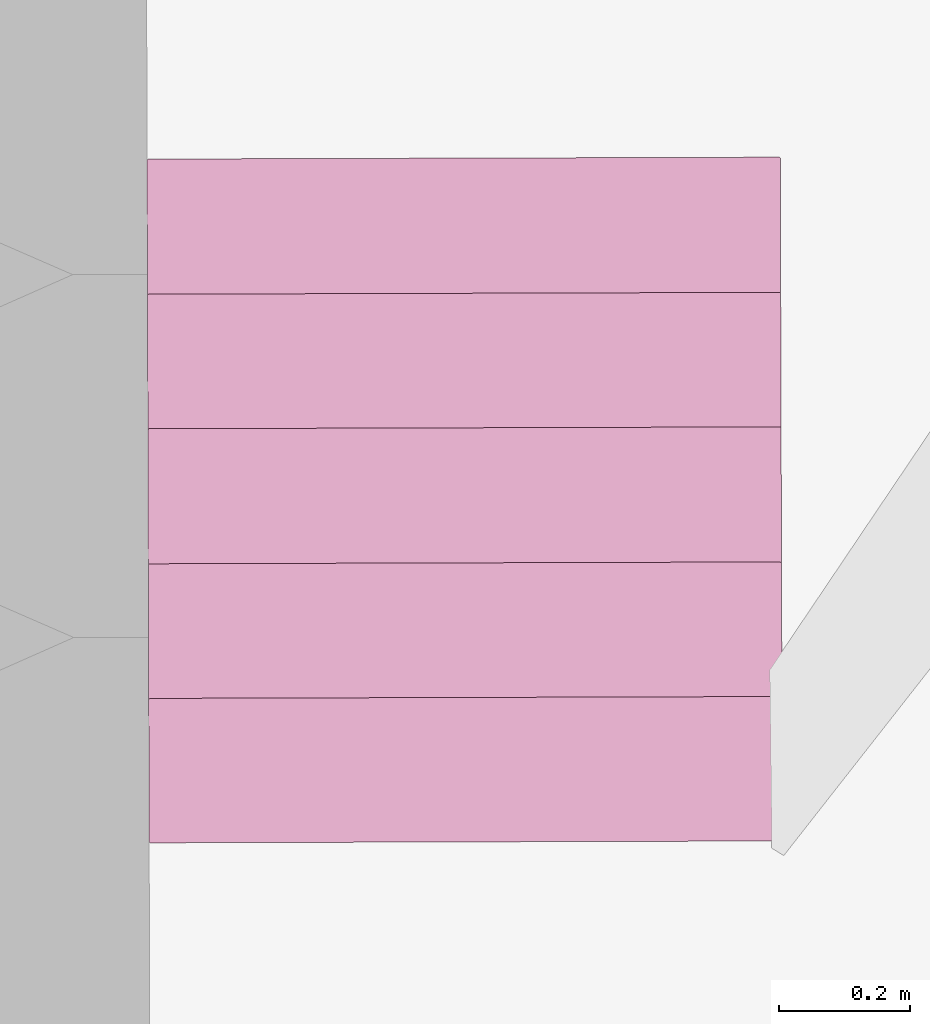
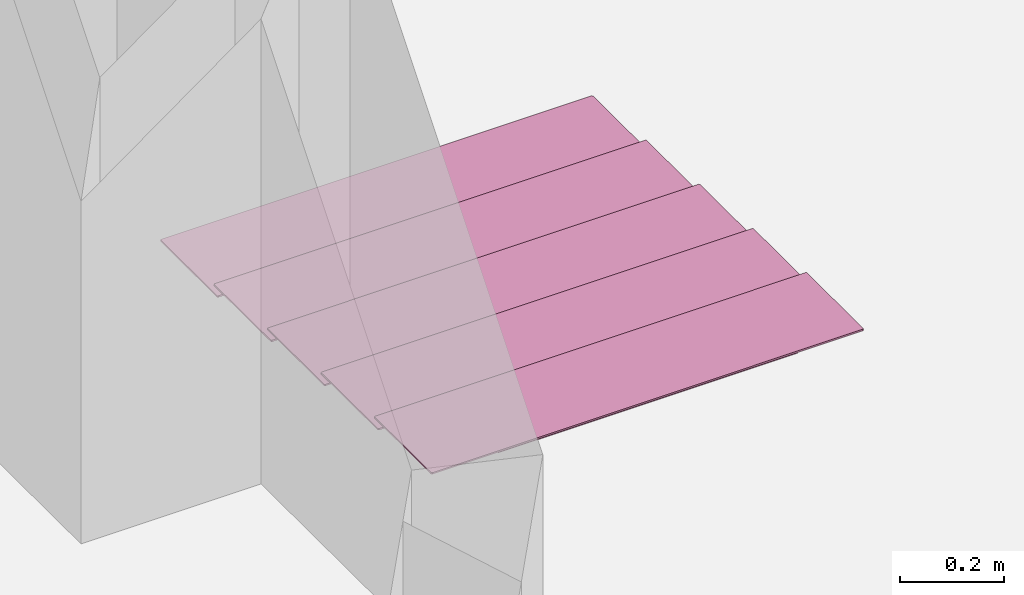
# One storey, part 10 of 15: 1 furniture element.
"""IFC4 building model written with IfcOpenShell, lengths in metres."""

from ifc_helpers import new_model, si_unit, direction, frame, origin_with_axes, place, context, project, spatial, polygons, type_object, element, save


model = new_model("IFC4")

# Units and contexts
model_context = context("Model", 3, precision=1e-05, world=origin_with_axes(), true_north=direction((-0.077, 0.997, 0.0)))
ifc_project = project(units=[si_unit("AREAUNIT", "SQUARE_METRE"), si_unit("LENGTHUNIT", "METRE")], contexts=[model_context])

# Site, building, storey, space
site_placement = place(None, origin_with_axes())
site = spatial("IfcSite", under=ifc_project, at=site_placement, Name="Site", CompositionType="ELEMENT")
building_placement = place(site_placement, origin_with_axes())
building = spatial("IfcBuilding", under=site, at=building_placement, Name="Building", CompositionType="ELEMENT")
storey_placement = place(building_placement, frame((0.0, 0.0, 5.71135139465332), z_axis=(0.0, 0.0, 1.0), x_axis=(1.0, 0.0, 0.0)))
storey = spatial("IfcBuildingStorey", under=building, at=storey_placement, Name="Story 2", CompositionType="ELEMENT", Elevation=5.71135139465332)
space_placement = place(storey_placement, frame((1.57239541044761, -0.970197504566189, 0.0), z_axis=(0.0, 0.0, 1.0), x_axis=(1.0, 0.0, 0.0)))
space = spatial("IfcSpace", under=storey, at=space_placement, Name="019", CompositionType="ELEMENT")

# Furniture
furniture_type = type_object("IfcFurnitureType", Name="e0f60e37-5849-42e5-8fd0-7a5be3019511", AssemblyPlace="NOTDEFINED", PredefinedType="USERDEFINED")
furniture_placement = place(space_placement, frame((0.479848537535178, 0.94719000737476, 0.0524983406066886), z_axis=(0.0, 0.0, 0.999999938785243), x_axis=(-0.00298984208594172, 0.999995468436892, 0.0)))
element("IfcFurniture", 1, at=furniture_placement, inside=space, type_object=furniture_type, Name="STAIRS", ObjectType="STAIRS", PredefinedType="USERDEFINED", context=model_context, shape_type="Tessellation", body=[
    polygons([(0.5205, 0.4802, -0.0285), (0.5205, -0.4802, -0.0285), (0.5205, 0.4802, -0.0323), (0.5205, -0.4802, -0.0323), (0.5205, 0.4802, -0.0323), (0.5205, -0.4802, -0.0285), (0.5191, -0.482, -0.0285), (0.3021, -0.482, -0.0285), (0.5191, -0.482, -0.0323), (0.3021, -0.482, -0.0323), (0.5191, -0.482, -0.0323), (0.3021, -0.482, -0.0285), (0.3006, -0.4802, -0.0285), (0.3006, 0.4802, -0.0285), (0.3006, -0.4802, -0.0323), (0.3006, 0.4802, -0.0323), (0.3006, -0.4802, -0.0323), (0.3006, 0.4802, -0.0285), (0.3021, 0.482, -0.0285), (0.5191, 0.482, -0.0285), (0.3021, 0.482, -0.0323), (0.5191, 0.482, -0.0323), (0.3021, 0.482, -0.0323), (0.5191, 0.482, -0.0285), (0.5191, -0.4802, -0.0325), (0.3021, -0.4802, -0.0325), (0.5191, 0.4802, -0.0325), (0.3021, 0.4802, -0.0325), (0.5191, 0.4802, -0.0325), (0.3021, -0.4802, -0.0325), (0.5191, -0.4802, -0.0283), (0.5191, 0.4802, -0.0283), (0.3021, -0.4802, -0.0283), (0.3021, 0.4802, -0.0283), (0.3021, -0.4802, -0.0283), (0.5191, 0.4802, -0.0283), (0.5191, 0.482, -0.0323), (0.5205, 0.4802, -0.0323), (0.5191, 0.4802, -0.0325), (0.5191, -0.482, -0.0323), (0.5191, -0.4802, -0.0325), (0.5205, -0.4802, -0.0323), (0.3006, -0.4802, -0.0323), (0.3021, -0.4802, -0.0325), (0.3021, -0.482, -0.0323), (0.3006, 0.4802, -0.0323), (0.3021, 0.482, -0.0323), (0.3021, 0.4802, -0.0325), (0.5191, 0.4802, -0.0283), (0.5205, 0.4802, -0.0285), (0.5191, 0.482, -0.0285), (0.5191, -0.4802, -0.0283), (0.5191, -0.482, -0.0285), (0.5205, -0.4802, -0.0285), (0.3021, -0.4802, -0.0283), (0.3006, -0.4802, -0.0285), (0.3021, -0.482, -0.0285), (0.3021, 0.4802, -0.0283), (0.3021, 0.482, -0.0285), (0.3006, 0.4802, -0.0285), (0.5191, 0.4802, -0.0325), (0.5205, 0.4802, -0.0323), (0.5191, -0.4802, -0.0325), (0.5205, -0.4802, -0.0323), (0.5191, -0.4802, -0.0325), (0.5205, 0.4802, -0.0323), (0.5191, -0.482, -0.0323), (0.5205, -0.4802, -0.0323), (0.5191, -0.482, -0.0285), (0.5205, -0.4802, -0.0285), (0.5191, -0.482, -0.0285), (0.5205, -0.4802, -0.0323), (0.5191, -0.4802, -0.0283), (0.5205, -0.4802, -0.0285), (0.5191, 0.4802, -0.0283), (0.5205, 0.4802, -0.0285), (0.5191, 0.4802, -0.0283), (0.5205, -0.4802, -0.0285), (0.5191, 0.482, -0.0285), (0.5205, 0.4802, -0.0285), (0.5191, 0.482, -0.0323), (0.5205, 0.4802, -0.0323), (0.5191, 0.482, -0.0323), (0.5205, 0.4802, -0.0285), (0.5191, -0.4802, -0.0325), (0.5191, -0.482, -0.0323), (0.3021, -0.4802, -0.0325), (0.3021, -0.482, -0.0323), (0.3021, -0.4802, -0.0325), (0.5191, -0.482, -0.0323), (0.3006, -0.4802, -0.0323), (0.3021, -0.482, -0.0323), (0.3006, -0.4802, -0.0285), (0.3021, -0.482, -0.0285), (0.3006, -0.4802, -0.0285), (0.3021, -0.482, -0.0323), (0.3021, -0.4802, -0.0283), (0.3021, -0.482, -0.0285), (0.5191, -0.4802, -0.0283), (0.5191, -0.482, -0.0285), (0.5191, -0.4802, -0.0283), (0.3021, -0.482, -0.0285), (0.3021, -0.4802, -0.0325), (0.3006, -0.4802, -0.0323), (0.3021, 0.4802, -0.0325), (0.3006, 0.4802, -0.0323), (0.3021, 0.4802, -0.0325), (0.3006, -0.4802, -0.0323), (0.3021, 0.482, -0.0323), (0.3006, 0.4802, -0.0323), (0.3021, 0.482, -0.0285), (0.3006, 0.4802, -0.0285), (0.3021, 0.482, -0.0285), (0.3006, 0.4802, -0.0323), (0.3021, 0.4802, -0.0283), (0.3006, 0.4802, -0.0285), (0.3021, -0.4802, -0.0283), (0.3006, -0.4802, -0.0285), (0.3021, -0.4802, -0.0283), (0.3006, 0.4802, -0.0285), (0.3021, 0.4802, -0.0325), (0.3021, 0.482, -0.0323), (0.5191, 0.4802, -0.0325), (0.5191, 0.482, -0.0323), (0.5191, 0.4802, -0.0325), (0.3021, 0.482, -0.0323), (0.5191, 0.4802, -0.0283), (0.5191, 0.482, -0.0285), (0.3021, 0.4802, -0.0283), (0.3021, 0.482, -0.0285), (0.3021, 0.4802, -0.0283), (0.5191, 0.482, -0.0285), (0.3147, 0.4802, -0.0085), (0.3147, -0.4802, -0.0085), (0.3147, 0.4802, -0.0122), (0.3147, -0.4802, -0.0122), (0.3147, 0.4802, -0.0122), (0.3147, -0.4802, -0.0085), (0.3132, -0.482, -0.0085), (0.0963, -0.482, -0.0085), (0.3132, -0.482, -0.0122), (0.0963, -0.482, -0.0122), (0.3132, -0.482, -0.0122), (0.0963, -0.482, -0.0085), (0.0948, -0.4802, -0.0085), (0.0948, 0.4802, -0.0085), (0.0948, -0.4802, -0.0122), (0.0948, 0.4802, -0.0122), (0.0948, -0.4802, -0.0122), (0.0948, 0.4802, -0.0085), (0.0963, 0.482, -0.0085), (0.3132, 0.482, -0.0085), (0.0963, 0.482, -0.0122), (0.3132, 0.482, -0.0122), (0.0963, 0.482, -0.0122), (0.3132, 0.482, -0.0085), (0.3132, -0.4802, -0.0125), (0.0963, -0.4802, -0.0125), (0.3132, 0.4802, -0.0125), (0.0963, 0.4802, -0.0125), (0.3132, 0.4802, -0.0125), (0.0963, -0.4802, -0.0125), (0.3132, -0.4802, -0.0082), (0.3132, 0.4802, -0.0082), (0.0963, -0.4802, -0.0082), (0.0963, 0.4802, -0.0082), (0.0963, -0.4802, -0.0082), (0.3132, 0.4802, -0.0082), (0.3132, 0.482, -0.0122), (0.3147, 0.4802, -0.0122), (0.3132, 0.4802, -0.0125), (0.3132, -0.482, -0.0122), (0.3132, -0.4802, -0.0125), (0.3147, -0.4802, -0.0122), (0.0948, -0.4802, -0.0122), (0.0963, -0.4802, -0.0125), (0.0963, -0.482, -0.0122), (0.0948, 0.4802, -0.0122), (0.0963, 0.482, -0.0122), (0.0963, 0.4802, -0.0125), (0.3132, 0.4802, -0.0082), (0.3147, 0.4802, -0.0085), (0.3132, 0.482, -0.0085), (0.3132, -0.4802, -0.0082), (0.3132, -0.482, -0.0085), (0.3147, -0.4802, -0.0085), (0.0963, -0.4802, -0.0082), (0.0948, -0.4802, -0.0085), (0.0963, -0.482, -0.0085), (0.0963, 0.4802, -0.0082), (0.0963, 0.482, -0.0085), (0.0948, 0.4802, -0.0085), (0.3132, 0.4802, -0.0125), (0.3147, 0.4802, -0.0122), (0.3132, -0.4802, -0.0125), (0.3147, -0.4802, -0.0122), (0.3132, -0.4802, -0.0125), (0.3147, 0.4802, -0.0122), (0.3132, -0.482, -0.0122), (0.3147, -0.4802, -0.0122), (0.3132, -0.482, -0.0085), (0.3147, -0.4802, -0.0085), (0.3132, -0.482, -0.0085), (0.3147, -0.4802, -0.0122), (0.3132, -0.4802, -0.0082), (0.3147, -0.4802, -0.0085), (0.3132, 0.4802, -0.0082), (0.3147, 0.4802, -0.0085), (0.3132, 0.4802, -0.0082), (0.3147, -0.4802, -0.0085), (0.3132, 0.482, -0.0085), (0.3147, 0.4802, -0.0085), (0.3132, 0.482, -0.0122), (0.3147, 0.4802, -0.0122), (0.3132, 0.482, -0.0122), (0.3147, 0.4802, -0.0085), (0.3132, -0.4802, -0.0125), (0.3132, -0.482, -0.0122), (0.0963, -0.4802, -0.0125), (0.0963, -0.482, -0.0122), (0.0963, -0.4802, -0.0125), (0.3132, -0.482, -0.0122), (0.0948, -0.4802, -0.0122), (0.0963, -0.482, -0.0122), (0.0948, -0.4802, -0.0085), (0.0963, -0.482, -0.0085), (0.0948, -0.4802, -0.0085), (0.0963, -0.482, -0.0122), (0.0963, -0.4802, -0.0082), (0.0963, -0.482, -0.0085), (0.3132, -0.4802, -0.0082), (0.3132, -0.482, -0.0085), (0.3132, -0.4802, -0.0082), (0.0963, -0.482, -0.0085), (0.0963, -0.4802, -0.0125), (0.0948, -0.4802, -0.0122), (0.0963, 0.4802, -0.0125), (0.0948, 0.4802, -0.0122), (0.0963, 0.4802, -0.0125), (0.0948, -0.4802, -0.0122), (0.0963, 0.482, -0.0122), (0.0948, 0.4802, -0.0122), (0.0963, 0.482, -0.0085), (0.0948, 0.4802, -0.0085), (0.0963, 0.482, -0.0085), (0.0948, 0.4802, -0.0122), (0.0963, 0.4802, -0.0082), (0.0948, 0.4802, -0.0085), (0.0963, -0.4802, -0.0082), (0.0948, -0.4802, -0.0085), (0.0963, -0.4802, -0.0082), (0.0948, 0.4802, -0.0085), (0.0963, 0.4802, -0.0125), (0.0963, 0.482, -0.0122), (0.3132, 0.4802, -0.0125), (0.3132, 0.482, -0.0122), (0.3132, 0.4802, -0.0125), (0.0963, 0.482, -0.0122), (0.3132, 0.4802, -0.0082), (0.3132, 0.482, -0.0085), (0.0963, 0.4802, -0.0082), (0.0963, 0.482, -0.0085), (0.0963, 0.4802, -0.0082), (0.3132, 0.482, -0.0085), (0.1099, 0.4802, 0.0117), (0.1099, -0.4802, 0.0117), (0.1099, 0.4802, 0.008), (0.1099, -0.4802, 0.008), (0.1099, 0.4802, 0.008), (0.1099, -0.4802, 0.0117), (0.1085, -0.482, 0.0117), (-0.1085, -0.482, 0.0117), (0.1085, -0.482, 0.008), (-0.1085, -0.482, 0.008), (0.1085, -0.482, 0.008), (-0.1085, -0.482, 0.0117), (-0.11, -0.4802, 0.0117), (-0.11, 0.4802, 0.0117), (-0.11, -0.4802, 0.008), (-0.11, 0.4802, 0.008), (-0.11, -0.4802, 0.008), (-0.11, 0.4802, 0.0117), (-0.1085, 0.482, 0.0117), (0.1085, 0.482, 0.0117), (-0.1085, 0.482, 0.008), (0.1085, 0.482, 0.008), (-0.1085, 0.482, 0.008), (0.1085, 0.482, 0.0117), (0.1085, -0.4802, 0.0077), (-0.1085, -0.4802, 0.0077), (0.1085, 0.4802, 0.0077), (-0.1085, 0.4802, 0.0077), (0.1085, 0.4802, 0.0077), (-0.1085, -0.4802, 0.0077), (0.1085, -0.4802, 0.012), (0.1085, 0.4802, 0.012), (-0.1085, -0.4802, 0.012), (-0.1085, 0.4802, 0.012), (-0.1085, -0.4802, 0.012), (0.1085, 0.4802, 0.012), (0.1085, 0.482, 0.008), (0.1099, 0.4802, 0.008), (0.1085, 0.4802, 0.0077), (0.1085, -0.482, 0.008), (0.1085, -0.4802, 0.0077), (0.1099, -0.4802, 0.008), (-0.11, -0.4802, 0.008), (-0.1085, -0.4802, 0.0077), (-0.1085, -0.482, 0.008), (-0.11, 0.4802, 0.008), (-0.1085, 0.482, 0.008), (-0.1085, 0.4802, 0.0077), (0.1085, 0.4802, 0.012), (0.1099, 0.4802, 0.0117), (0.1085, 0.482, 0.0117), (0.1085, -0.4802, 0.012), (0.1085, -0.482, 0.0117), (0.1099, -0.4802, 0.0117), (-0.1085, -0.4802, 0.012), (-0.11, -0.4802, 0.0117), (-0.1085, -0.482, 0.0117), (-0.1085, 0.4802, 0.012), (-0.1085, 0.482, 0.0117), (-0.11, 0.4802, 0.0117), (0.1085, 0.4802, 0.0077), (0.1099, 0.4802, 0.008), (0.1085, -0.4802, 0.0077), (0.1099, -0.4802, 0.008), (0.1085, -0.4802, 0.0077), (0.1099, 0.4802, 0.008), (0.1085, -0.482, 0.008), (0.1099, -0.4802, 0.008), (0.1085, -0.482, 0.0117), (0.1099, -0.4802, 0.0117), (0.1085, -0.482, 0.0117), (0.1099, -0.4802, 0.008), (0.1085, -0.4802, 0.012), (0.1099, -0.4802, 0.0117), (0.1085, 0.4802, 0.012), (0.1099, 0.4802, 0.0117), (0.1085, 0.4802, 0.012), (0.1099, -0.4802, 0.0117), (0.1085, 0.482, 0.0117), (0.1099, 0.4802, 0.0117), (0.1085, 0.482, 0.008), (0.1099, 0.4802, 0.008), (0.1085, 0.482, 0.008), (0.1099, 0.4802, 0.0117), (0.1085, -0.4802, 0.0077), (0.1085, -0.482, 0.008), (-0.1085, -0.4802, 0.0077), (-0.1085, -0.482, 0.008), (-0.1085, -0.4802, 0.0077), (0.1085, -0.482, 0.008), (-0.11, -0.4802, 0.008), (-0.1085, -0.482, 0.008), (-0.11, -0.4802, 0.0117), (-0.1085, -0.482, 0.0117), (-0.11, -0.4802, 0.0117), (-0.1085, -0.482, 0.008), (-0.1085, -0.4802, 0.012), (-0.1085, -0.482, 0.0117), (0.1085, -0.4802, 0.012), (0.1085, -0.482, 0.0117), (0.1085, -0.4802, 0.012), (-0.1085, -0.482, 0.0117), (-0.1085, -0.4802, 0.0077), (-0.11, -0.4802, 0.008), (-0.1085, 0.4802, 0.0077), (-0.11, 0.4802, 0.008), (-0.1085, 0.4802, 0.0077), (-0.11, -0.4802, 0.008), (-0.1085, 0.482, 0.008), (-0.11, 0.4802, 0.008), (-0.1085, 0.482, 0.0117), (-0.11, 0.4802, 0.0117), (-0.1085, 0.482, 0.0117), (-0.11, 0.4802, 0.008), (-0.1085, 0.4802, 0.012), (-0.11, 0.4802, 0.0117), (-0.1085, -0.4802, 0.012), (-0.11, -0.4802, 0.0117), (-0.1085, -0.4802, 0.012), (-0.11, 0.4802, 0.0117), (-0.1085, 0.4802, 0.0077), (-0.1085, 0.482, 0.008), (0.1085, 0.4802, 0.0077), (0.1085, 0.482, 0.008), (0.1085, 0.4802, 0.0077), (-0.1085, 0.482, 0.008), (0.1085, 0.4802, 0.012), (0.1085, 0.482, 0.0117), (-0.1085, 0.4802, 0.012), (-0.1085, 0.482, 0.0117), (-0.1085, 0.4802, 0.012), (0.1085, 0.482, 0.0117), (-0.0957, 0.4802, 0.032), (-0.0957, -0.4802, 0.032), (-0.0957, 0.4802, 0.0283), (-0.0957, -0.4802, 0.0283), (-0.0957, 0.4802, 0.0283), (-0.0957, -0.4802, 0.032), (-0.0972, -0.482, 0.032), (-0.3142, -0.482, 0.032), (-0.0972, -0.482, 0.0283), (-0.3142, -0.482, 0.0283), (-0.0972, -0.482, 0.0283), (-0.3142, -0.482, 0.032), (-0.3156, -0.4802, 0.032), (-0.3156, 0.4802, 0.032), (-0.3156, -0.4802, 0.0283), (-0.3156, 0.4802, 0.0283), (-0.3156, -0.4802, 0.0283), (-0.3156, 0.4802, 0.032), (-0.3142, 0.482, 0.032), (-0.0972, 0.482, 0.032), (-0.3142, 0.482, 0.0283), (-0.0972, 0.482, 0.0283), (-0.3142, 0.482, 0.0283), (-0.0972, 0.482, 0.032), (-0.0972, -0.4802, 0.028), (-0.3142, -0.4802, 0.028), (-0.0972, 0.4802, 0.028), (-0.3142, 0.4802, 0.028), (-0.0972, 0.4802, 0.028), (-0.3142, -0.4802, 0.028), (-0.0972, -0.4802, 0.0323), (-0.0972, 0.4802, 0.0323), (-0.3142, -0.4802, 0.0323), (-0.3142, 0.4802, 0.0323), (-0.3142, -0.4802, 0.0323), (-0.0972, 0.4802, 0.0323), (-0.0972, 0.482, 0.0283), (-0.0957, 0.4802, 0.0283), (-0.0972, 0.4802, 0.028), (-0.0972, -0.482, 0.0283), (-0.0972, -0.4802, 0.028), (-0.0957, -0.4802, 0.0283), (-0.3156, -0.4802, 0.0283), (-0.3142, -0.4802, 0.028), (-0.3142, -0.482, 0.0283), (-0.3156, 0.4802, 0.0283), (-0.3142, 0.482, 0.0283), (-0.3142, 0.4802, 0.028), (-0.0972, 0.4802, 0.0323), (-0.0957, 0.4802, 0.032), (-0.0972, 0.482, 0.032), (-0.0972, -0.4802, 0.0323), (-0.0972, -0.482, 0.032), (-0.0957, -0.4802, 0.032), (-0.3142, -0.4802, 0.0323), (-0.3156, -0.4802, 0.032), (-0.3142, -0.482, 0.032), (-0.3142, 0.4802, 0.0323), (-0.3142, 0.482, 0.032), (-0.3156, 0.4802, 0.032), (-0.0972, 0.4802, 0.028), (-0.0957, 0.4802, 0.0283), (-0.0972, -0.4802, 0.028), (-0.0957, -0.4802, 0.0283), (-0.0972, -0.4802, 0.028), (-0.0957, 0.4802, 0.0283), (-0.0972, -0.482, 0.0283), (-0.0957, -0.4802, 0.0283), (-0.0972, -0.482, 0.032), (-0.0957, -0.4802, 0.032), (-0.0972, -0.482, 0.032), (-0.0957, -0.4802, 0.0283), (-0.0972, -0.4802, 0.0323), (-0.0957, -0.4802, 0.032), (-0.0972, 0.4802, 0.0323), (-0.0957, 0.4802, 0.032), (-0.0972, 0.4802, 0.0323), (-0.0957, -0.4802, 0.032), (-0.0972, 0.482, 0.032), (-0.0957, 0.4802, 0.032), (-0.0972, 0.482, 0.0283), (-0.0957, 0.4802, 0.0283), (-0.0972, 0.482, 0.0283), (-0.0957, 0.4802, 0.032), (-0.0972, -0.4802, 0.028), (-0.0972, -0.482, 0.0283), (-0.3142, -0.4802, 0.028), (-0.3142, -0.482, 0.0283), (-0.3142, -0.4802, 0.028), (-0.0972, -0.482, 0.0283), (-0.3156, -0.4802, 0.0283), (-0.3142, -0.482, 0.0283), (-0.3156, -0.4802, 0.032), (-0.3142, -0.482, 0.032), (-0.3156, -0.4802, 0.032), (-0.3142, -0.482, 0.0283), (-0.3142, -0.4802, 0.0323), (-0.3142, -0.482, 0.032), (-0.0972, -0.4802, 0.0323), (-0.0972, -0.482, 0.032), (-0.0972, -0.4802, 0.0323), (-0.3142, -0.482, 0.032), (-0.3142, -0.4802, 0.028), (-0.3156, -0.4802, 0.0283), (-0.3142, 0.4802, 0.028), (-0.3156, 0.4802, 0.0283), (-0.3142, 0.4802, 0.028), (-0.3156, -0.4802, 0.0283), (-0.3142, 0.482, 0.0283), (-0.3156, 0.4802, 0.0283), (-0.3142, 0.482, 0.032), (-0.3156, 0.4802, 0.032), (-0.3142, 0.482, 0.032), (-0.3156, 0.4802, 0.0283), (-0.3142, 0.4802, 0.0323), (-0.3156, 0.4802, 0.032), (-0.3142, -0.4802, 0.0323), (-0.3156, -0.4802, 0.032), (-0.3142, -0.4802, 0.0323), (-0.3156, 0.4802, 0.032), (-0.3142, 0.4802, 0.028), (-0.3142, 0.482, 0.0283), (-0.0972, 0.4802, 0.028), (-0.0972, 0.482, 0.0283), (-0.0972, 0.4802, 0.028), (-0.3142, 0.482, 0.0283), (-0.0972, 0.4802, 0.0323), (-0.0972, 0.482, 0.032), (-0.3142, 0.4802, 0.0323), (-0.3142, 0.482, 0.032), (-0.3142, 0.4802, 0.0323), (-0.0972, 0.482, 0.032), (-0.3006, 0.4802, 0.0522), (-0.3006, -0.4802, 0.0522), (-0.3006, 0.4802, 0.0485), (-0.3006, -0.4802, 0.0485), (-0.3006, 0.4802, 0.0485), (-0.3006, -0.4802, 0.0522), (-0.3021, -0.482, 0.0522), (-0.5191, -0.482, 0.0522), (-0.3021, -0.482, 0.0485), (-0.5191, -0.482, 0.0485), (-0.3021, -0.482, 0.0485), (-0.5191, -0.482, 0.0522), (-0.5205, -0.4802, 0.0522), (-0.5205, 0.4802, 0.0522), (-0.5205, -0.4802, 0.0485), (-0.5205, 0.4802, 0.0485), (-0.5205, -0.4802, 0.0485), (-0.5205, 0.4802, 0.0522), (-0.5191, 0.482, 0.0522), (-0.3021, 0.482, 0.0522), (-0.5191, 0.482, 0.0485), (-0.3021, 0.482, 0.0485), (-0.5191, 0.482, 0.0485), (-0.3021, 0.482, 0.0522), (-0.3021, -0.4802, 0.0482), (-0.5191, -0.4802, 0.0482), (-0.3021, 0.4802, 0.0482), (-0.5191, 0.4802, 0.0482), (-0.3021, 0.4802, 0.0482), (-0.5191, -0.4802, 0.0482), (-0.3021, -0.4802, 0.0525), (-0.3021, 0.4802, 0.0525), (-0.5191, -0.4802, 0.0525), (-0.5191, 0.4802, 0.0525), (-0.5191, -0.4802, 0.0525), (-0.3021, 0.4802, 0.0525), (-0.3021, 0.482, 0.0485), (-0.3006, 0.4802, 0.0485), (-0.3021, 0.4802, 0.0482), (-0.3021, -0.482, 0.0485), (-0.3021, -0.4802, 0.0482), (-0.3006, -0.4802, 0.0485), (-0.5205, -0.4802, 0.0485), (-0.5191, -0.4802, 0.0482), (-0.5191, -0.482, 0.0485), (-0.5205, 0.4802, 0.0485), (-0.5191, 0.482, 0.0485), (-0.5191, 0.4802, 0.0482), (-0.3021, 0.4802, 0.0525), (-0.3006, 0.4802, 0.0522), (-0.3021, 0.482, 0.0522), (-0.3021, -0.4802, 0.0525), (-0.3021, -0.482, 0.0522), (-0.3006, -0.4802, 0.0522), (-0.5191, -0.4802, 0.0525), (-0.5205, -0.4802, 0.0522), (-0.5191, -0.482, 0.0522), (-0.5191, 0.4802, 0.0525), (-0.5191, 0.482, 0.0522), (-0.5205, 0.4802, 0.0522), (-0.3021, 0.4802, 0.0482), (-0.3006, 0.4802, 0.0485), (-0.3021, -0.4802, 0.0482), (-0.3006, -0.4802, 0.0485), (-0.3021, -0.4802, 0.0482), (-0.3006, 0.4802, 0.0485), (-0.3021, -0.482, 0.0485), (-0.3006, -0.4802, 0.0485), (-0.3021, -0.482, 0.0522), (-0.3006, -0.4802, 0.0522), (-0.3021, -0.482, 0.0522), (-0.3006, -0.4802, 0.0485), (-0.3021, -0.4802, 0.0525), (-0.3006, -0.4802, 0.0522), (-0.3021, 0.4802, 0.0525), (-0.3006, 0.4802, 0.0522), (-0.3021, 0.4802, 0.0525), (-0.3006, -0.4802, 0.0522), (-0.3021, 0.482, 0.0522), (-0.3006, 0.4802, 0.0522), (-0.3021, 0.482, 0.0485), (-0.3006, 0.4802, 0.0485), (-0.3021, 0.482, 0.0485), (-0.3006, 0.4802, 0.0522), (-0.3021, -0.4802, 0.0482), (-0.3021, -0.482, 0.0485), (-0.5191, -0.4802, 0.0482), (-0.5191, -0.482, 0.0485), (-0.5191, -0.4802, 0.0482), (-0.3021, -0.482, 0.0485), (-0.5205, -0.4802, 0.0485), (-0.5191, -0.482, 0.0485), (-0.5205, -0.4802, 0.0522), (-0.5191, -0.482, 0.0522), (-0.5205, -0.4802, 0.0522), (-0.5191, -0.482, 0.0485), (-0.5191, -0.4802, 0.0525), (-0.5191, -0.482, 0.0522), (-0.3021, -0.4802, 0.0525), (-0.3021, -0.482, 0.0522), (-0.3021, -0.4802, 0.0525), (-0.5191, -0.482, 0.0522), (-0.5191, -0.4802, 0.0482), (-0.5205, -0.4802, 0.0485), (-0.5191, 0.4802, 0.0482), (-0.5205, 0.4802, 0.0485), (-0.5191, 0.4802, 0.0482), (-0.5205, -0.4802, 0.0485), (-0.5191, 0.482, 0.0485), (-0.5205, 0.4802, 0.0485), (-0.5191, 0.482, 0.0522), (-0.5205, 0.4802, 0.0522), (-0.5191, 0.482, 0.0522), (-0.5205, 0.4802, 0.0485), (-0.5191, 0.4802, 0.0525), (-0.5205, 0.4802, 0.0522), (-0.5191, -0.4802, 0.0525), (-0.5205, -0.4802, 0.0522), (-0.5191, -0.4802, 0.0525), (-0.5205, 0.4802, 0.0522), (-0.5191, 0.4802, 0.0482), (-0.5191, 0.482, 0.0485), (-0.3021, 0.4802, 0.0482), (-0.3021, 0.482, 0.0485), (-0.3021, 0.4802, 0.0482), (-0.5191, 0.482, 0.0485), (-0.3021, 0.4802, 0.0525), (-0.3021, 0.482, 0.0522), (-0.5191, 0.4802, 0.0525), (-0.5191, 0.482, 0.0522), (-0.5191, 0.4802, 0.0525), (-0.3021, 0.482, 0.0522), (0.5053, 0.2873, -0.0325), (0.5053, 0.2873, -0.0525), (0.5053, 0.329, -0.0325), (0.5053, 0.329, -0.0525), (0.5053, 0.329, -0.0325), (0.5053, 0.2873, -0.0525), (0.3001, 0.2873, -0.0325), (0.5053, 0.2873, -0.0325), (0.3001, 0.329, -0.0325), (0.5053, 0.329, -0.0325), (0.3001, 0.329, -0.0325), (0.5053, 0.2873, -0.0325), (0.3001, 0.2873, -0.0124), (0.3001, 0.2873, -0.0325), (0.3001, 0.329, -0.0124), (0.3001, 0.329, -0.0325), (0.3001, 0.329, -0.0124), (0.3001, 0.2873, -0.0325), (0.0948, 0.2873, -0.0124), (0.3001, 0.2873, -0.0124), (0.0948, 0.329, -0.0124), (0.3001, 0.329, -0.0124), (0.0948, 0.329, -0.0124), (0.3001, 0.2873, -0.0124), (0.0948, 0.2873, 0.0078), (0.0948, 0.2873, -0.0124), (0.0948, 0.329, 0.0078), (0.0948, 0.329, -0.0124), (0.0948, 0.329, 0.0078), (0.0948, 0.2873, -0.0124), (-0.1104, 0.2873, 0.0078), (0.0948, 0.2873, 0.0078), (-0.1104, 0.329, 0.0078), (0.0948, 0.329, 0.0078), (-0.1104, 0.329, 0.0078), (0.0948, 0.2873, 0.0078), (-0.1104, 0.2873, 0.0279), (-0.1104, 0.2873, 0.0078), (-0.1104, 0.329, 0.0279), (-0.1104, 0.329, 0.0078), (-0.1104, 0.329, 0.0279), (-0.1104, 0.2873, 0.0078), (-0.3157, 0.2873, 0.0279), (-0.1104, 0.2873, 0.0279), (-0.3157, 0.329, 0.0279), (-0.1104, 0.329, 0.0279), (-0.3157, 0.329, 0.0279), (-0.1104, 0.2873, 0.0279), (-0.3157, 0.2873, 0.0481), (-0.3157, 0.2873, 0.0279), (-0.3157, 0.329, 0.0481), (-0.3157, 0.329, 0.0279), (-0.3157, 0.329, 0.0481), (-0.3157, 0.2873, 0.0279), (-0.5136, 0.2873, 0.0481), (-0.3157, 0.2873, 0.0481), (-0.5136, 0.329, 0.0481), (-0.3157, 0.329, 0.0481), (-0.5136, 0.329, 0.0481), (-0.3157, 0.2873, 0.0481), (0.5053, -0.3383, -0.0325), (0.5053, -0.3383, -0.0525), (0.5053, -0.2966, -0.0325), (0.5053, -0.2966, -0.0525), (0.5053, -0.2966, -0.0325), (0.5053, -0.3383, -0.0525), (0.3001, -0.3383, -0.0325), (0.5053, -0.3383, -0.0325), (0.3001, -0.2966, -0.0325), (0.5053, -0.2966, -0.0325), (0.3001, -0.2966, -0.0325), (0.5053, -0.3383, -0.0325), (0.3001, -0.3383, -0.0124), (0.3001, -0.3383, -0.0325), (0.3001, -0.2966, -0.0124), (0.3001, -0.2966, -0.0325), (0.3001, -0.2966, -0.0124), (0.3001, -0.3383, -0.0325), (0.0948, -0.3383, -0.0124), (0.3001, -0.3383, -0.0124), (0.0948, -0.2966, -0.0124), (0.3001, -0.2966, -0.0124), (0.0948, -0.2966, -0.0124), (0.3001, -0.3383, -0.0124), (0.0948, -0.3383, 0.0078), (0.0948, -0.3383, -0.0124), (0.0948, -0.2966, 0.0078), (0.0948, -0.2966, -0.0124), (0.0948, -0.2966, 0.0078), (0.0948, -0.3383, -0.0124), (-0.1104, -0.3383, 0.0078), (0.0948, -0.3383, 0.0078), (-0.1104, -0.2966, 0.0078), (0.0948, -0.2966, 0.0078), (-0.1104, -0.2966, 0.0078), (0.0948, -0.3383, 0.0078), (-0.1104, -0.3383, 0.0279), (-0.1104, -0.3383, 0.0078), (-0.1104, -0.2966, 0.0279), (-0.1104, -0.2966, 0.0078), (-0.1104, -0.2966, 0.0279), (-0.1104, -0.3383, 0.0078), (-0.3157, -0.3383, 0.0279), (-0.1104, -0.3383, 0.0279), (-0.3157, -0.2966, 0.0279), (-0.1104, -0.2966, 0.0279), (-0.3157, -0.2966, 0.0279), (-0.1104, -0.3383, 0.0279), (-0.3157, -0.3383, 0.0481), (-0.3157, -0.3383, 0.0279), (-0.3157, -0.2966, 0.0481), (-0.3157, -0.2966, 0.0279), (-0.3157, -0.2966, 0.0481), (-0.3157, -0.3383, 0.0279), (-0.5136, -0.3383, 0.0481), (-0.3157, -0.3383, 0.0481), (-0.5136, -0.2966, 0.0481), (-0.3157, -0.2966, 0.0481), (-0.5136, -0.2966, 0.0481), (-0.3157, -0.3383, 0.0481), (0.4502, 0.329, -0.0525), (0.4502, 0.2873, -0.0525), (-0.5136, 0.329, 0.0413), (-0.5136, 0.2873, 0.0413), (-0.5136, 0.329, 0.0413), (0.4502, 0.2873, -0.0525), (0.4502, -0.2966, -0.0525), (0.4502, -0.3383, -0.0525), (-0.5136, -0.2966, 0.0413), (-0.5136, -0.3383, 0.0413), (-0.5136, -0.2966, 0.0413), (0.4502, -0.3383, -0.0525), (0.4502, 0.329, -0.0525), (0.5053, 0.329, -0.0525), (0.4502, 0.2873, -0.0525), (0.5053, 0.2873, -0.0525), (0.4502, 0.2873, -0.0525), (0.5053, 0.329, -0.0525), (-0.5136, 0.329, 0.0413), (-0.5136, 0.2873, 0.0413), (-0.5136, 0.329, 0.0481), (-0.5136, 0.2873, 0.0481), (-0.5136, 0.329, 0.0481), (-0.5136, 0.2873, 0.0413), (0.4502, -0.3383, -0.0525), (0.4502, -0.2966, -0.0525), (0.5053, -0.3383, -0.0525), (0.5053, -0.2966, -0.0525), (0.5053, -0.3383, -0.0525), (0.4502, -0.2966, -0.0525), (-0.5136, -0.2966, 0.0413), (-0.5136, -0.3383, 0.0413), (-0.5136, -0.2966, 0.0481), (-0.5136, -0.3383, 0.0481), (-0.5136, -0.2966, 0.0481), (-0.5136, -0.3383, 0.0413), (-0.3157, 0.2873, 0.0481), (-0.5136, 0.2873, 0.0481), (-0.3157, -0.2966, 0.0481), (-0.5136, -0.2966, 0.0481), (-0.3157, -0.2966, 0.0481), (-0.5136, 0.2873, 0.0481), (-0.3157, 0.2873, 0.0279), (-0.3157, 0.2873, 0.0481), (-0.3157, -0.2966, 0.0279), (-0.3157, -0.2966, 0.0481), (-0.3157, -0.2966, 0.0279), (-0.3157, 0.2873, 0.0481), (-0.1104, 0.2873, 0.0279), (-0.3157, 0.2873, 0.0279), (-0.1104, -0.2966, 0.0279), (-0.3157, -0.2966, 0.0279), (-0.1104, -0.2966, 0.0279), (-0.3157, 0.2873, 0.0279), (-0.1104, 0.2873, 0.0078), (-0.1104, 0.2873, 0.0279), (-0.1104, -0.2966, 0.0078), (-0.1104, -0.2966, 0.0279), (-0.1104, -0.2966, 0.0078), (-0.1104, 0.2873, 0.0279), (0.0948, 0.2873, 0.0078), (-0.1104, 0.2873, 0.0078), (0.0948, -0.2966, 0.0078), (-0.1104, -0.2966, 0.0078), (0.0948, -0.2966, 0.0078), (-0.1104, 0.2873, 0.0078), (0.0948, 0.2873, -0.0124), (0.0948, 0.2873, 0.0078), (0.0948, -0.2966, -0.0124), (0.0948, -0.2966, 0.0078), (0.0948, -0.2966, -0.0124), (0.0948, 0.2873, 0.0078), (0.3001, 0.2873, -0.0124), (0.0948, 0.2873, -0.0124), (0.3001, -0.2966, -0.0124), (0.0948, -0.2966, -0.0124), (0.3001, -0.2966, -0.0124), (0.0948, 0.2873, -0.0124), (0.3001, 0.2873, -0.0325), (0.3001, 0.2873, -0.0124), (0.3001, -0.2966, -0.0325), (0.3001, -0.2966, -0.0124), (0.3001, -0.2966, -0.0325), (0.3001, 0.2873, -0.0124), (0.5053, 0.2873, -0.0325), (0.3001, 0.2873, -0.0325), (0.5053, -0.2966, -0.0325), (0.3001, -0.2966, -0.0325), (0.5053, -0.2966, -0.0325), (0.3001, 0.2873, -0.0325), (0.5053, 0.2873, -0.0525), (0.5053, 0.2873, -0.0325), (0.5053, -0.2966, -0.0525), (0.5053, -0.2966, -0.0325), (0.5053, -0.2966, -0.0525), (0.5053, 0.2873, -0.0325), (0.4502, -0.2966, -0.0525), (0.4502, 0.2873, -0.0525), (0.5053, -0.2966, -0.0525), (0.5053, 0.2873, -0.0525), (0.5053, -0.2966, -0.0525), (0.4502, 0.2873, -0.0525), (-0.5136, 0.2873, 0.0413), (0.4502, 0.2873, -0.0525), (-0.5136, -0.2966, 0.0413), (0.4502, -0.2966, -0.0525), (-0.5136, -0.2966, 0.0413), (0.4502, 0.2873, -0.0525), (-0.5136, -0.3383, 0.0481), (-0.5136, -0.3383, 0.0413), (-0.3157, -0.3383, 0.0481), (-0.3157, -0.3383, 0.0481), (-0.5136, -0.3383, 0.0413), (-0.3157, -0.3383, 0.0279), (-0.1104, -0.3383, 0.0279), (-0.3157, -0.3383, 0.0279), (-0.1104, -0.3383, 0.0078), (-0.3157, -0.3383, 0.0279), (-0.5136, -0.3383, 0.0413), (-0.1104, -0.3383, 0.0078), (0.0948, -0.3383, 0.0078), (-0.1104, -0.3383, 0.0078), (0.0948, -0.3383, -0.0124), (0.3001, -0.3383, -0.0124), (0.0948, -0.3383, -0.0124), (0.3001, -0.3383, -0.0325), (0.0948, -0.3383, -0.0124), (-0.1104, -0.3383, 0.0078), (0.3001, -0.3383, -0.0325), (-0.1104, -0.3383, 0.0078), (-0.5136, -0.3383, 0.0413), (0.3001, -0.3383, -0.0325), (0.5053, -0.3383, -0.0325), (0.3001, -0.3383, -0.0325), (0.5053, -0.3383, -0.0525), (0.3001, -0.3383, -0.0325), (-0.5136, -0.3383, 0.0413), (0.5053, -0.3383, -0.0525), (0.5053, -0.3383, -0.0525), (-0.5136, -0.3383, 0.0413), (0.4502, -0.3383, -0.0525), (0.5053, 0.329, -0.0525), (0.4502, 0.329, -0.0525), (0.5053, 0.329, -0.0325), (0.5053, 0.329, -0.0325), (0.4502, 0.329, -0.0525), (0.3001, 0.329, -0.0325), (0.3001, 0.329, -0.0124), (0.3001, 0.329, -0.0325), (0.0948, 0.329, -0.0124), (0.3001, 0.329, -0.0325), (0.4502, 0.329, -0.0525), (0.0948, 0.329, -0.0124), (0.0948, 0.329, 0.0078), (0.0948, 0.329, -0.0124), (-0.1104, 0.329, 0.0078), (0.0948, 0.329, -0.0124), (0.4502, 0.329, -0.0525), (-0.1104, 0.329, 0.0078), (-0.1104, 0.329, 0.0279), (-0.1104, 0.329, 0.0078), (-0.3157, 0.329, 0.0279), (-0.1104, 0.329, 0.0078), (0.4502, 0.329, -0.0525), (-0.3157, 0.329, 0.0279), (-0.3157, 0.329, 0.0481), (-0.3157, 0.329, 0.0279), (-0.5136, 0.329, 0.0481), (-0.3157, 0.329, 0.0279), (0.4502, 0.329, -0.0525), (-0.5136, 0.329, 0.0481), (-0.5136, 0.329, 0.0481), (0.4502, 0.329, -0.0525), (-0.5136, 0.329, 0.0413), (-0.5136, -0.2966, 0.0481), (-0.5136, 0.2873, 0.0481), (-0.5136, -0.2966, 0.0413), (-0.5136, 0.2873, 0.0413), (-0.5136, -0.2966, 0.0413), (-0.5136, 0.2873, 0.0481)], [[[1, 2, 3]], [[4, 5, 6]], [[7, 8, 9]], [[10, 11, 12]], [[13, 14, 15]], [[16, 17, 18]], [[19, 20, 21]], [[22, 23, 24]], [[25, 26, 27]], [[28, 29, 30]], [[31, 32, 33]], [[34, 35, 36]], [[37, 38, 39]], [[40, 41, 42]], [[43, 44, 45]], [[46, 47, 48]], [[49, 50, 51]], [[52, 53, 54]], [[55, 56, 57]], [[58, 59, 60]], [[61, 62, 63]], [[64, 65, 66]], [[67, 68, 69]], [[70, 71, 72]], [[73, 74, 75]], [[76, 77, 78]], [[79, 80, 81]], [[82, 83, 84]], [[85, 86, 87]], [[88, 89, 90]], [[91, 92, 93]], [[94, 95, 96]], [[97, 98, 99]], [[100, 101, 102]], [[103, 104, 105]], [[106, 107, 108]], [[109, 110, 111]], [[112, 113, 114]], [[115, 116, 117]], [[118, 119, 120]], [[121, 122, 123]], [[124, 125, 126]], [[127, 128, 129]], [[130, 131, 132]], [[133, 134, 135]], [[136, 137, 138]], [[139, 140, 141]], [[142, 143, 144]], [[145, 146, 147]], [[148, 149, 150]], [[151, 152, 153]], [[154, 155, 156]], [[157, 158, 159]], [[160, 161, 162]], [[163, 164, 165]], [[166, 167, 168]], [[169, 170, 171]], [[172, 173, 174]], [[175, 176, 177]], [[178, 179, 180]], [[181, 182, 183]], [[184, 185, 186]], [[187, 188, 189]], [[190, 191, 192]], [[193, 194, 195]], [[196, 197, 198]], [[199, 200, 201]], [[202, 203, 204]], [[205, 206, 207]], [[208, 209, 210]], [[211, 212, 213]], [[214, 215, 216]], [[217, 218, 219]], [[220, 221, 222]], [[223, 224, 225]], [[226, 227, 228]], [[229, 230, 231]], [[232, 233, 234]], [[235, 236, 237]], [[238, 239, 240]], [[241, 242, 243]], [[244, 245, 246]], [[247, 248, 249]], [[250, 251, 252]], [[253, 254, 255]], [[256, 257, 258]], [[259, 260, 261]], [[262, 263, 264]], [[265, 266, 267]], [[268, 269, 270]], [[271, 272, 273]], [[274, 275, 276]], [[277, 278, 279]], [[280, 281, 282]], [[283, 284, 285]], [[286, 287, 288]], [[289, 290, 291]], [[292, 293, 294]], [[295, 296, 297]], [[298, 299, 300]], [[301, 302, 303]], [[304, 305, 306]], [[307, 308, 309]], [[310, 311, 312]], [[313, 314, 315]], [[316, 317, 318]], [[319, 320, 321]], [[322, 323, 324]], [[325, 326, 327]], [[328, 329, 330]], [[331, 332, 333]], [[334, 335, 336]], [[337, 338, 339]], [[340, 341, 342]], [[343, 344, 345]], [[346, 347, 348]], [[349, 350, 351]], [[352, 353, 354]], [[355, 356, 357]], [[358, 359, 360]], [[361, 362, 363]], [[364, 365, 366]], [[367, 368, 369]], [[370, 371, 372]], [[373, 374, 375]], [[376, 377, 378]], [[379, 380, 381]], [[382, 383, 384]], [[385, 386, 387]], [[388, 389, 390]], [[391, 392, 393]], [[394, 395, 396]], [[397, 398, 399]], [[400, 401, 402]], [[403, 404, 405]], [[406, 407, 408]], [[409, 410, 411]], [[412, 413, 414]], [[415, 416, 417]], [[418, 419, 420]], [[421, 422, 423]], [[424, 425, 426]], [[427, 428, 429]], [[430, 431, 432]], [[433, 434, 435]], [[436, 437, 438]], [[439, 440, 441]], [[442, 443, 444]], [[445, 446, 447]], [[448, 449, 450]], [[451, 452, 453]], [[454, 455, 456]], [[457, 458, 459]], [[460, 461, 462]], [[463, 464, 465]], [[466, 467, 468]], [[469, 470, 471]], [[472, 473, 474]], [[475, 476, 477]], [[478, 479, 480]], [[481, 482, 483]], [[484, 485, 486]], [[487, 488, 489]], [[490, 491, 492]], [[493, 494, 495]], [[496, 497, 498]], [[499, 500, 501]], [[502, 503, 504]], [[505, 506, 507]], [[508, 509, 510]], [[511, 512, 513]], [[514, 515, 516]], [[517, 518, 519]], [[520, 521, 522]], [[523, 524, 525]], [[526, 527, 528]], [[529, 530, 531]], [[532, 533, 534]], [[535, 536, 537]], [[538, 539, 540]], [[541, 542, 543]], [[544, 545, 546]], [[547, 548, 549]], [[550, 551, 552]], [[553, 554, 555]], [[556, 557, 558]], [[559, 560, 561]], [[562, 563, 564]], [[565, 566, 567]], [[568, 569, 570]], [[571, 572, 573]], [[574, 575, 576]], [[577, 578, 579]], [[580, 581, 582]], [[583, 584, 585]], [[586, 587, 588]], [[589, 590, 591]], [[592, 593, 594]], [[595, 596, 597]], [[598, 599, 600]], [[601, 602, 603]], [[604, 605, 606]], [[607, 608, 609]], [[610, 611, 612]], [[613, 614, 615]], [[616, 617, 618]], [[619, 620, 621]], [[622, 623, 624]], [[625, 626, 627]], [[628, 629, 630]], [[631, 632, 633]], [[634, 635, 636]], [[637, 638, 639]], [[640, 641, 642]], [[643, 644, 645]], [[646, 647, 648]], [[649, 650, 651]], [[652, 653, 654]], [[655, 656, 657]], [[658, 659, 660]], [[661, 662, 663]], [[664, 665, 666]], [[667, 668, 669]], [[670, 671, 672]], [[673, 674, 675]], [[676, 677, 678]], [[679, 680, 681]], [[682, 683, 684]], [[685, 686, 687]], [[688, 689, 690]], [[691, 692, 693]], [[694, 695, 696]], [[697, 698, 699]], [[700, 701, 702]], [[703, 704, 705]], [[706, 707, 708]], [[709, 710, 711]], [[712, 713, 714]], [[715, 716, 717]], [[718, 719, 720]], [[721, 722, 723]], [[724, 725, 726]], [[727, 728, 729]], [[730, 731, 732]], [[733, 734, 735]], [[736, 737, 738]], [[739, 740, 741]], [[742, 743, 744]], [[745, 746, 747]], [[748, 749, 750]], [[751, 752, 753]], [[754, 755, 756]], [[757, 758, 759]], [[760, 761, 762]], [[763, 764, 765]], [[766, 767, 768]], [[769, 770, 771]], [[772, 773, 774]], [[775, 776, 777]], [[778, 779, 780]], [[781, 782, 783]], [[784, 785, 786]], [[787, 788, 789]], [[790, 791, 792]], [[793, 794, 795]], [[796, 797, 798]], [[799, 800, 801]], [[802, 803, 804]], [[805, 806, 807]], [[808, 809, 810]], [[811, 812, 813]], [[814, 815, 816]], [[817, 818, 819]], [[820, 821, 822]], [[823, 824, 825]], [[826, 827, 828]], [[829, 830, 831]], [[832, 833, 834]], [[835, 836, 837]], [[838, 839, 840]], [[841, 842, 843]], [[844, 845, 846]], [[847, 848, 849]], [[850, 851, 852]], [[853, 854, 855]], [[856, 857, 858]], [[859, 860, 861]], [[862, 863, 864]], [[865, 866, 867]], [[868, 869, 870]], [[871, 872, 873]], [[874, 875, 876]], [[877, 878, 879]], [[880, 881, 882]], [[883, 884, 885]], [[886, 887, 888]], [[889, 890, 891]], [[892, 893, 894]], [[895, 896, 897]], [[898, 899, 900]], [[901, 902, 903]], [[904, 905, 906]], [[907, 908, 909]], [[910, 911, 912]], [[913, 914, 915]], [[916, 917, 918]], [[919, 920, 921]], [[922, 923, 924]], [[925, 926, 927]], [[928, 929, 930]], [[931, 932, 933]], [[934, 935, 936]], [[937, 938, 939]], [[940, 941, 942]], [[943, 944, 945]], [[946, 947, 948]], [[949, 950, 951]], [[952, 953, 954]], [[955, 956, 957]], [[958, 959, 960]]]),
])

save(model, "model.ifc")
